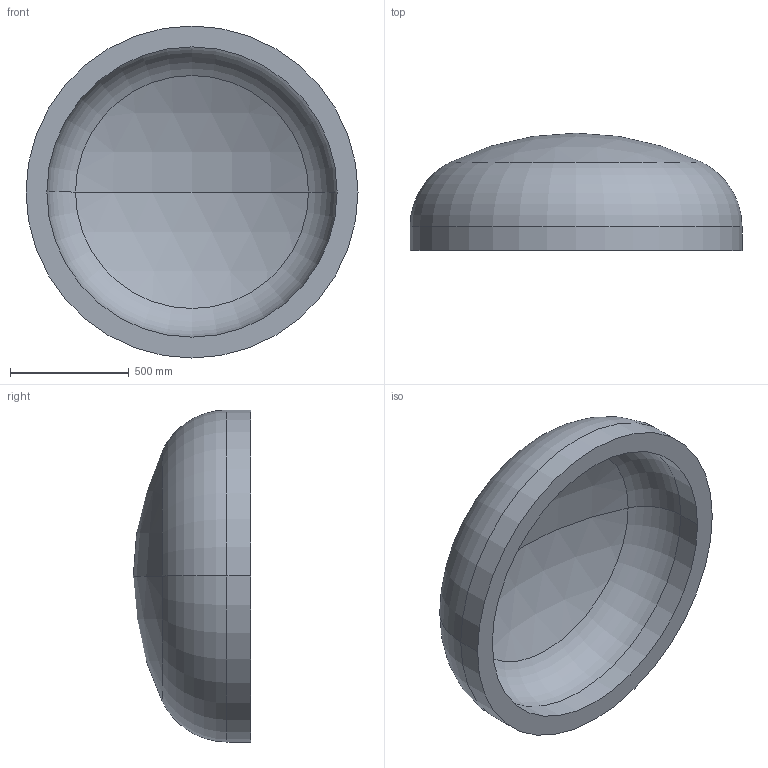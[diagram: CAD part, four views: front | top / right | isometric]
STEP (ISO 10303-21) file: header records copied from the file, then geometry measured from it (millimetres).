
FILE_DESCRIPTION (( 'STEP AP203' ), '1' );
FILE_NAME ('DIN 28013 Korbbogenform_-_Boden DIN 28013 - 1400 x 100 - I - s=88.step', '2016-07-01T10:27:05', ( '' ), ( '' ), 'SwSTEP 2.0', 'SolidWorks 2013', '' );
FILE_SCHEMA (( 'CONFIG_CONTROL_DESIGN' ));
Length unit declared in the file: millimetre
Products named in the file (1): DIN 28013 Korbbogenform_-_Boden DIN 28013 - 1400 x 100 - I - s=88
Bounding box: 1400 x 494.73 x 1400 mm (x, y, z)
Volume: 209374799.9 mm3; surface area: 5137451.8 mm2
Topology: 1 solids, 1 shells, 13 faces, 24 edges, 14 vertices
Faces by surface type: torus 4, cylinder 4, sphere 4, plane 1
Entity records: 407 total; most frequent: DIRECTION 72, CARTESIAN_POINT 52, ORIENTED_EDGE 48, AXIS2_PLACEMENT_3D 34, EDGE_CURVE 24, CIRCLE 20, VERTEX_POINT 14, EDGE_LOOP 14
